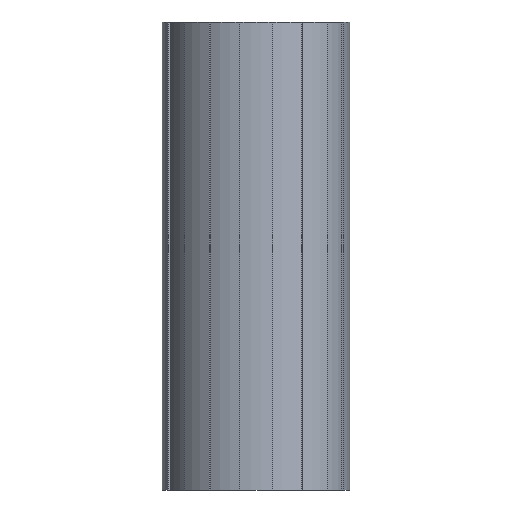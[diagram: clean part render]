
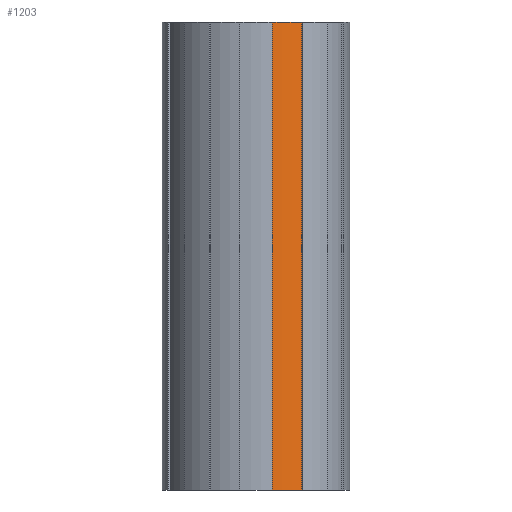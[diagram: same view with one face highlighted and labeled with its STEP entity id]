
A CAD part, front view. The second image highlights one B-rep face of the part: STEP entity #1203.
In plain terms, the highlighted cylindrical face has radius 19.5 mm (diameter 39 mm), a partial arc.
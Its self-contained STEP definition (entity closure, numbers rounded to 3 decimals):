
#63=CIRCLE('',#1306,19.5);
#64=CIRCLE('',#1307,19.5);
#112=CYLINDRICAL_SURFACE('',#1305,19.5);
#157=FACE_OUTER_BOUND('',#219,.T.);
#219=EDGE_LOOP('',(#905,#906,#907,#908));
#312=LINE('',#1923,#424);
#314=LINE('',#1929,#426);
#424=VECTOR('',#1556,10.);
#426=VECTOR('',#1562,10.);
#545=VERTEX_POINT('',#1920);
#546=VERTEX_POINT('',#1922);
#547=VERTEX_POINT('',#1926);
#548=VERTEX_POINT('',#1928);
#694=EDGE_CURVE('',#546,#545,#312,.T.);
#696=EDGE_CURVE('',#545,#547,#63,.T.);
#697=EDGE_CURVE('',#548,#547,#314,.T.);
#698=EDGE_CURVE('',#548,#546,#64,.T.);
#905=ORIENTED_EDGE('',*,*,#696,.T.);
#906=ORIENTED_EDGE('',*,*,#697,.F.);
#907=ORIENTED_EDGE('',*,*,#698,.T.);
#908=ORIENTED_EDGE('',*,*,#694,.T.);
#1203=ADVANCED_FACE('',(#157),#112,.T.);
#1305=AXIS2_PLACEMENT_3D('',#1925,#1558,#1559);
#1306=AXIS2_PLACEMENT_3D('',#1927,#1560,#1561);
#1307=AXIS2_PLACEMENT_3D('',#1930,#1563,#1564);
#1556=DIRECTION('',(0.,0.,1.));
#1558=DIRECTION('center_axis',(0.,0.,1.));
#1559=DIRECTION('ref_axis',(0.174,-0.985,0.));
#1560=DIRECTION('center_axis',(0.,0.,-1.));
#1561=DIRECTION('ref_axis',(0.174,-0.985,0.));
#1562=DIRECTION('',(0.,0.,1.));
#1563=DIRECTION('center_axis',(0.,0.,1.));
#1564=DIRECTION('ref_axis',(0.174,-0.985,0.));
#1920=CARTESIAN_POINT('',(1317.041,1380.011,100.));
#1922=CARTESIAN_POINT('',(1317.041,1380.011,0.));
#1923=CARTESIAN_POINT('',(1317.041,1380.011,0.));
#1925=CARTESIAN_POINT('Origin',(1307.291,1396.898,0.));
#1926=CARTESIAN_POINT('',(1310.677,1377.695,100.));
#1927=CARTESIAN_POINT('Origin',(1307.291,1396.898,100.));
#1928=CARTESIAN_POINT('',(1310.677,1377.695,0.));
#1929=CARTESIAN_POINT('',(1310.677,1377.695,0.));
#1930=CARTESIAN_POINT('Origin',(1307.291,1396.898,0.));
